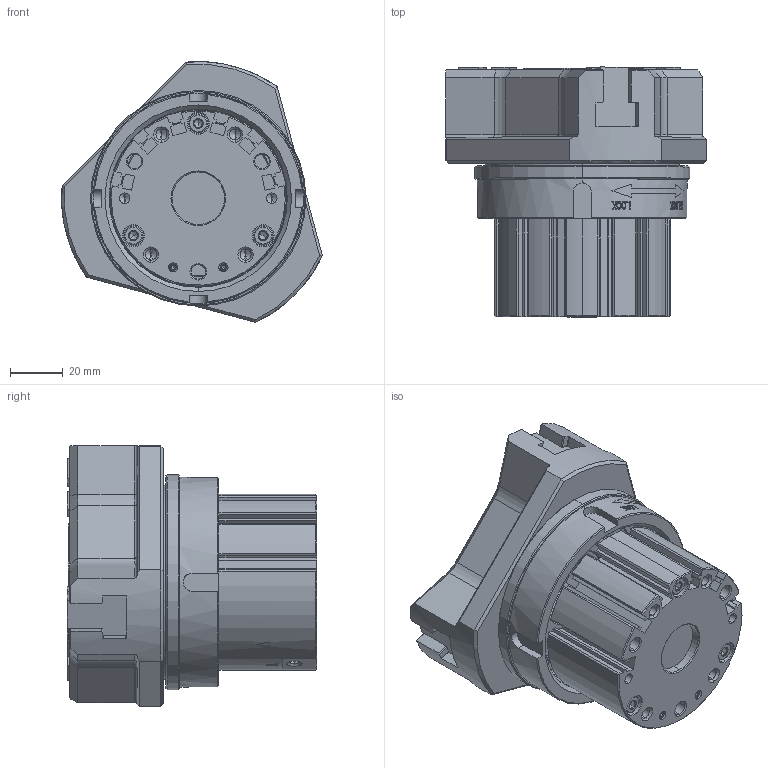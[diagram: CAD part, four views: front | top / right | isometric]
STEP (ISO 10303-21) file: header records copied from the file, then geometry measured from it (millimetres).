
FILE_DESCRIPTION (( 'STEP AP214' ), '1' );
FILE_NAME ('HP-QGBL06+QGL30610-Assy-20241125-HCL.STEP', '2024-11-25T06:30:41', ( '' ), ( '' ), 'SwSTEP 2.0', 'SolidWorks 2022', '' );
FILE_SCHEMA (( 'AUTOMOTIVE_DESIGN' ));
Length unit declared in the file: millimetre
Products named in the file (11): REAR BODY^QGBL06_HP-QGBL06+QGL30610; BOLT1^QGBL06_HP-QGBL06+QGL30610; QGL30610^HP-QGBL06+QGL30610_中央; LOCK NUT^QGBL06_HP-QGBL06+QGL30610; MASTER JAW^QGL30610_HP-QGBL06+QGL30610; QGBL06^HP-QGBL06+QGL30610_閉端; S-SARA^QGL30610_HP-QGBL06+QGL30610; HP-QGBL06+QGL30610-Assy-20241125-HCL; BODY^QGL30610_HP-QGBL06+QGL30610; S-TOME^QGBL06_HP-QGBL06+QGL30610; COVER^QGL30610_HP-QGBL06+QGL30610
Assembly tree (17 placements, depth 3):
  HP-QGBL06+QGL30610-Assy-20241125-HCL
    QGBL06^HP-QGBL06+QGL30610_閉端
      REAR BODY^QGBL06_HP-QGBL06+QGL30610
      LOCK NUT^QGBL06_HP-QGBL06+QGL30610
      BOLT1^QGBL06_HP-QGBL06+QGL30610  x3
      S-TOME^QGBL06_HP-QGBL06+QGL30610  x2
    QGL30610^HP-QGBL06+QGL30610_中央
      BODY^QGL30610_HP-QGBL06+QGL30610
      MASTER JAW^QGL30610_HP-QGBL06+QGL30610  x3
      COVER^QGL30610_HP-QGBL06+QGL30610
      S-SARA^QGL30610_HP-QGBL06+QGL30610  x3
Bounding box: 99.23 x 95 x 99.23 mm (x, y, z)
Volume: 287957.6 mm3; surface area: 89990.6 mm2
Topology: 15 solids, 15 shells, 3044 faces, 8470 edges, 5553 vertices
Faces by surface type: plane 1434, bspline 1136, cylinder 256, cone 202, torus 16
Entity records: 126045 total; most frequent: CARTESIAN_POINT 61932, ORIENTED_EDGE 15876, DIRECTION 8536, EDGE_CURVE 7938, VERTEX_POINT 5245, VECTOR 3852, LINE 3852, B_SPLINE_CURVE_WITH_KNOTS 3447
